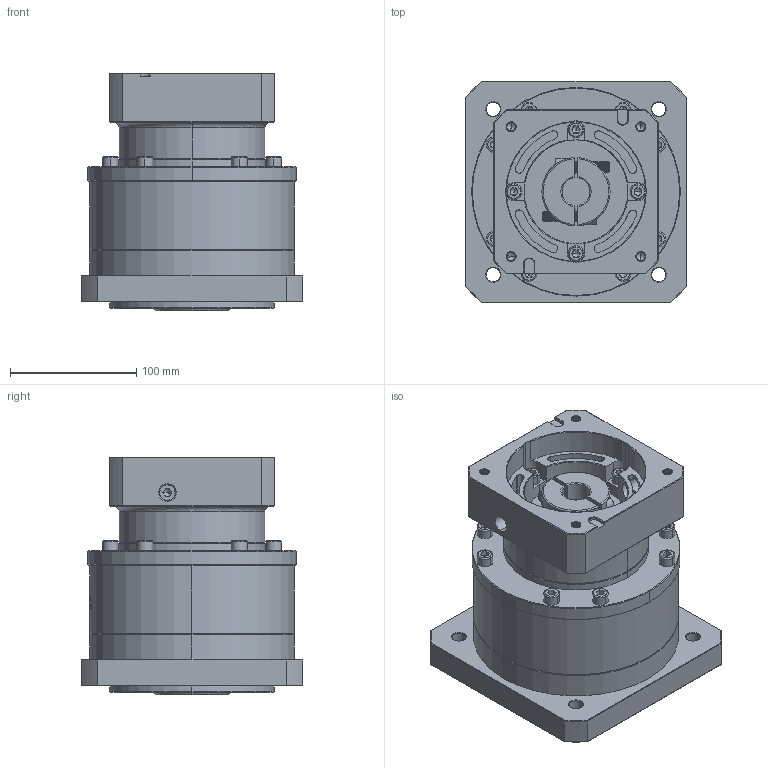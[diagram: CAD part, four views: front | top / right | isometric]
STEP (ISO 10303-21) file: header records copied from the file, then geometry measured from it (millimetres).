
FILE_DESCRIPTION (( 'STEP AP214' ), '1' );
FILE_NAME ('ZF160-K35-L1-22-110-145-M8.step', '2023-03-21T04:31:04', ( '' ), ( '' ), 'SwSTEP 2.0', 'SolidWorks 2016', '' );
FILE_SCHEMA (( 'AUTOMOTIVE_DESIGN' ));
Length unit declared in the file: millimetre
Products named in the file (1): ZF160-K35-L1-22-110-145-M8
Bounding box: 175 x 175 x 187.8 mm (x, y, z)
Volume: 3052035.9 mm3; surface area: 308046.3 mm2
Topology: 7 solids, 7 shells, 1852 faces, 4743 edges, 3012 vertices
Faces by surface type: plane 767, cylinder 467, cone 354, bspline 210, torus 54
Entity records: 98787 total; most frequent: CARTESIAN_POINT 35529, ORIENTED_EDGE 9382, DIRECTION 8291, EDGE_CURVE 4691, VERTEX_POINT 3012, AXIS2_PLACEMENT_3D 2889, VECTOR 2513, LINE 2513
